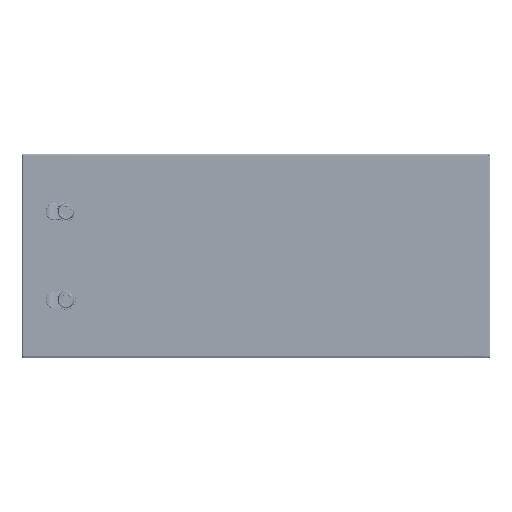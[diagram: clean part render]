
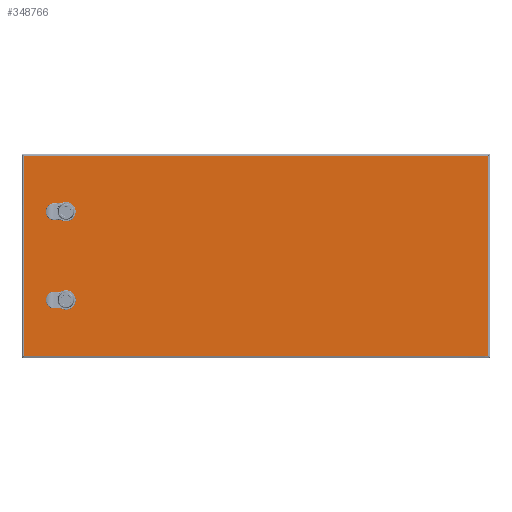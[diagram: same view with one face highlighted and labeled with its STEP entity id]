
A CAD part, top view. The second image highlights one B-rep face of the part: STEP entity #348766.
In plain terms, the highlighted planar face has unit normal (0, 0, 1).
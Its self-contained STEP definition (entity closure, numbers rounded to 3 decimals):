
#342896=CARTESIAN_POINT(' ',(389.389,172.733,269.003));
#342897=VERTEX_POINT(' ',#342896);
#343561=CARTESIAN_POINT(' ',(389.389,-166.667,269.003));
#343562=VERTEX_POINT(' ',#343561);
#344406=CARTESIAN_POINT(' ',(389.389,172.733,269.003));
#344411=DIRECTION(' ',(0.,-1.,0.));
#344416=VECTOR(' ',#344411,1.);
#344421=LINE('',#344406,#344416);
#344426=EDGE_CURVE(' ',#342897,#343562,#344421,.T.);
#346411=CARTESIAN_POINT(' ',(-399.011,-166.667,269.003));
#346412=VERTEX_POINT(' ',#346411);
#346951=CARTESIAN_POINT(' ',(-399.011,172.733,269.003));
#346952=VERTEX_POINT(' ',#346951);
#348636=DIRECTION(' ',(-0.,-0.,1.));
#348641=CARTESIAN_POINT(' ',(389.389,-166.667,269.003));
#348646=DIRECTION(' ',(0.,1.,0.));
#348651=AXIS2_PLACEMENT_3D(' ',#348641,#348636,#348646);
#348656=PLANE('NONE',#348651);
#348661=CARTESIAN_POINT(' ',(-399.011,-166.667,269.003));
#348666=DIRECTION(' ',(1.,0.,0.));
#348671=VECTOR(' ',#348666,1.);
#348676=LINE('',#348661,#348671);
#348681=EDGE_CURVE(' ',#346412,#343562,#348676,.T.);
#348686=ORIENTED_EDGE(' ',*,*,#348681,.T.);
#348691=ORIENTED_EDGE(' ',*,*,#344426,.F.);
#348696=CARTESIAN_POINT(' ',(389.389,172.733,269.003));
#348701=DIRECTION(' ',(-1.,0.,0.));
#348706=VECTOR(' ',#348701,1.);
#348711=LINE('',#348696,#348706);
#348716=EDGE_CURVE(' ',#342897,#346952,#348711,.T.);
#348721=ORIENTED_EDGE(' ',*,*,#348716,.T.);
#348726=CARTESIAN_POINT(' ',(-399.011,172.733,269.003));
#348731=DIRECTION(' ',(0.,-1.,0.));
#348736=VECTOR(' ',#348731,1.);
#348741=LINE('',#348726,#348736);
#348746=EDGE_CURVE(' ',#346952,#346412,#348741,.T.);
#348751=ORIENTED_EDGE(' ',*,*,#348746,.T.);
#348756=EDGE_LOOP(' ',(#348686,#348691,#348721,#348751));
#348761=FACE_OUTER_BOUND(' ',#348756,.T.);
#348766=ADVANCED_FACE('NONE',(#348761),#348656,.T.);
